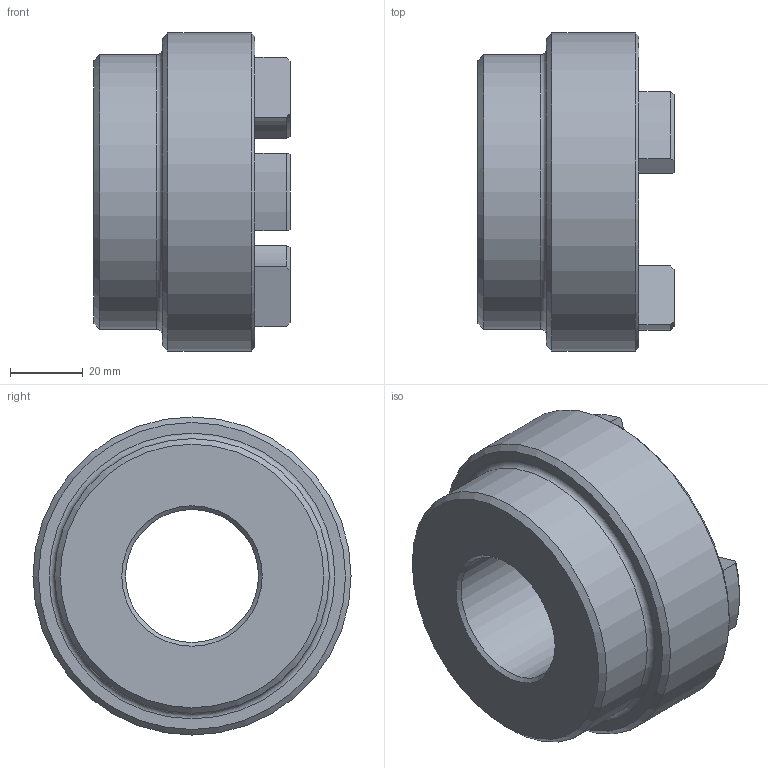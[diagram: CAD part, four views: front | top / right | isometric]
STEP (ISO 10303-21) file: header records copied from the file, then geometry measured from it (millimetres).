
FILE_DESCRIPTION (( 'STEP AP203' ), '1' );
FILE_NAME ('RC3.step', '2024-07-24T12:51:00', ( 'Adlan' ), ( '' ), 'SwSTEP 2.0', 'SolidWorks 2013', '' );
FILE_SCHEMA (( 'CONFIG_CONTROL_DESIGN' ));
Length unit declared in the file: inch
Products named in the file (1): RC3
Bounding box: 53.85 x 87.38 x 87.38 mm (x, y, z)
Volume: 161946.3 mm3; surface area: 29750.4 mm2
Topology: 1 solids, 1 shells, 60 faces, 146 edges, 90 vertices
Faces by surface type: cylinder 24, plane 13, torus 13, cone 10
Full cylindrical faces by diameter (mm): 36.525 x1, 75.438 x1, 87.376 x1
Entity records: 1841 total; most frequent: CARTESIAN_POINT 341, DIRECTION 324, ORIENTED_EDGE 274, EDGE_CURVE 137, AXIS2_PLACEMENT_3D 132, VERTEX_POINT 89, EDGE_LOOP 72, CIRCLE 71
